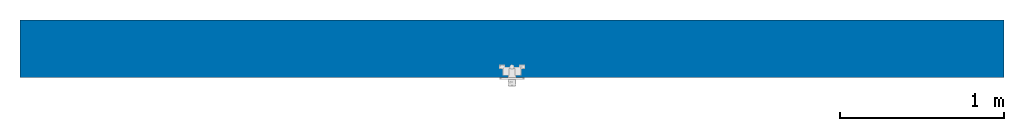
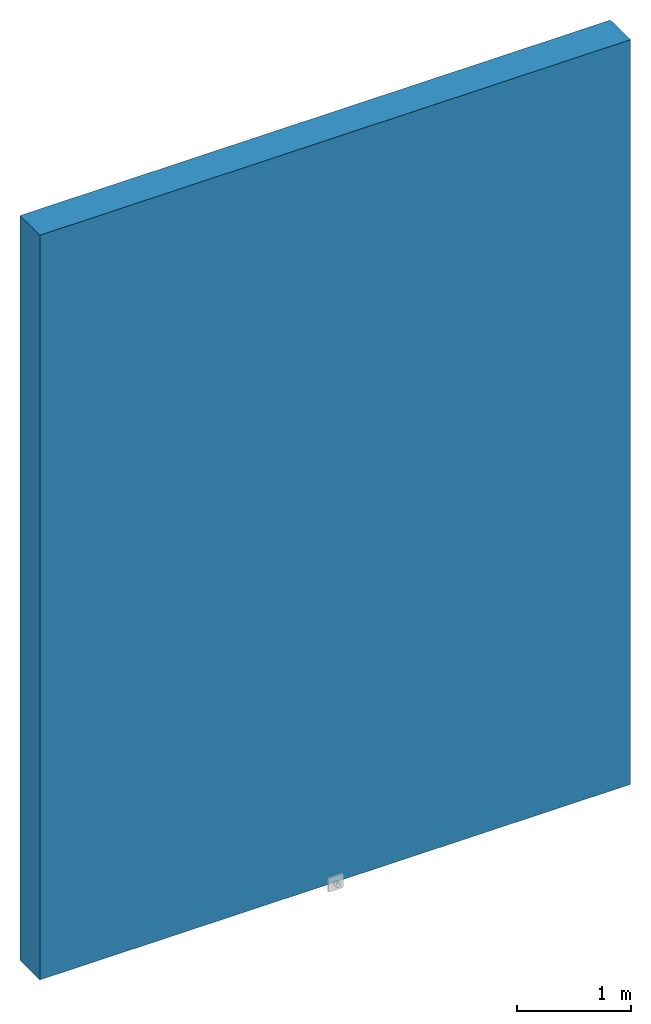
# One storey, incomplete: 1 wall.
"""IFC2X3 building model written with IfcOpenShell, lengths in millimetres."""

from ifc_helpers import new_model, entity, si_unit, converted_unit, derived_unit, direction, frame, frame_2d, origin, place, context, subcontext, project, spatial, rectangle, extrude, type_object, element, save


model = new_model("IFC2X3")

# Units and contexts
model_context = context("Model", 3, precision=0.01, world=origin(), true_north=direction((6.12303176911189e-17, 1.0)))
body_context = subcontext(model_context, "Body", "Model", "MODEL_VIEW")
ifc_project = project(units=[si_unit("LENGTHUNIT", "METRE", prefix="MILLI"), si_unit("AREAUNIT", "SQUARE_METRE"), si_unit("VOLUMEUNIT", "CUBIC_METRE"), converted_unit("PLANEANGLEUNIT", "DEGREE", entity("IfcRatioMeasure", 0.0174532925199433), si_unit("PLANEANGLEUNIT", "RADIAN"), dimensions=[0, 0, 0, 0, 0, 0, 0]), si_unit("MASSUNIT", "GRAM", prefix="KILO"), derived_unit("MASSDENSITYUNIT", [(si_unit("MASSUNIT", "GRAM", prefix="KILO"), 1), (si_unit("LENGTHUNIT", "METRE"), -3)]), derived_unit("MOMENTOFINERTIAUNIT", [(si_unit("LENGTHUNIT", "METRE"), 4)]), si_unit("TIMEUNIT", "SECOND"), si_unit("FREQUENCYUNIT", "HERTZ"), si_unit("THERMODYNAMICTEMPERATUREUNIT", "DEGREE_CELSIUS"), derived_unit("THERMALTRANSMITTANCEUNIT", [(si_unit("MASSUNIT", "GRAM", prefix="KILO"), 1), (si_unit("THERMODYNAMICTEMPERATUREUNIT", "KELVIN"), -1), (si_unit("TIMEUNIT", "SECOND"), -3)]), derived_unit("VOLUMETRICFLOWRATEUNIT", [(si_unit("LENGTHUNIT", "METRE"), 3), (si_unit("TIMEUNIT", "SECOND"), -1)]), si_unit("ELECTRICCURRENTUNIT", "AMPERE"), si_unit("ELECTRICVOLTAGEUNIT", "VOLT"), si_unit("POWERUNIT", "WATT"), si_unit("FORCEUNIT", "NEWTON", prefix="KILO"), si_unit("ILLUMINANCEUNIT", "LUX"), si_unit("LUMINOUSFLUXUNIT", "LUMEN"), si_unit("LUMINOUSINTENSITYUNIT", "CANDELA"), derived_unit("USERDEFINED", [(si_unit("MASSUNIT", "GRAM", prefix="KILO"), -1), (si_unit("LENGTHUNIT", "METRE"), -2), (si_unit("TIMEUNIT", "SECOND"), 3), (si_unit("LUMINOUSFLUXUNIT", "LUMEN"), 1)]), derived_unit("LINEARVELOCITYUNIT", [(si_unit("LENGTHUNIT", "METRE"), 1), (si_unit("TIMEUNIT", "SECOND"), -1)]), si_unit("PRESSUREUNIT", "PASCAL"), derived_unit("USERDEFINED", [(si_unit("LENGTHUNIT", "METRE"), -2), (si_unit("MASSUNIT", "GRAM", prefix="KILO"), 1), (si_unit("TIMEUNIT", "SECOND"), -2)]), derived_unit("LINEARFORCEUNIT", [(si_unit("MASSUNIT", "GRAM", prefix="KILO"), 1), (si_unit("LENGTHUNIT", "METRE"), 1), (si_unit("TIMEUNIT", "SECOND"), -2), (si_unit("LENGTHUNIT", "METRE"), -1)]), derived_unit("PLANARFORCEUNIT", [(si_unit("MASSUNIT", "GRAM", prefix="KILO"), 1), (si_unit("LENGTHUNIT", "METRE"), 1), (si_unit("TIMEUNIT", "SECOND"), -2), (si_unit("LENGTHUNIT", "METRE"), -2)])], contexts=[model_context])

# Site, building, storey
site_placement = place(None, origin())
site = spatial("IfcSite", under=ifc_project, at=site_placement, Name="Default", CompositionType="ELEMENT")
building_placement = place(site_placement, origin())
building = spatial("IfcBuilding", under=site, at=building_placement, CompositionType="ELEMENT")
storey_placement = place(building_placement, origin())
storey = spatial("IfcBuildingStorey", under=building, at=storey_placement, Name="Level 1", CompositionType="ELEMENT", Elevation=0.0)

# Wall
wall_type = type_object("IfcWallType", Name="Basic Wall:Exterior - Brick on Mtl. Stud", PredefinedType="STANDARD")
wall_placement = place(storey_placement, frame((-5536.25998819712, 986.174030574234, 0.0)))
element("IfcWallStandardCase", 1, at=wall_placement, inside=storey, type_object=wall_type, Name="Basic Wall:Exterior - Brick on Mtl. Stud", ObjectType="Basic Wall:Exterior - Brick on Mtl. Stud", context=body_context, shape_type="SweptSolid", body=[
    extrude(rectangle(XDim=6000.0, YDim=350.0, at=frame_2d((3000.0, 2.8421709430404e-14), x_axis=(-1.0, 0.0))), origin(), (0.0, 0.0, 1.0), 8000.0),
])

save(model, "model.ifc")
